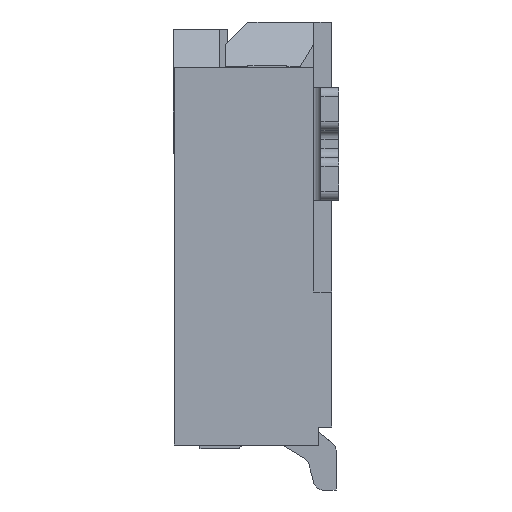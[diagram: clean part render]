
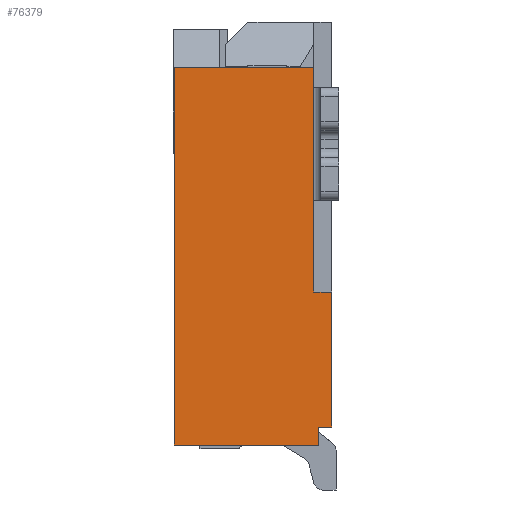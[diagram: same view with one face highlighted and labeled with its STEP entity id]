
A CAD part, left-side view. The second image highlights one B-rep face of the part: STEP entity #76379.
In plain terms, the highlighted planar face has unit normal (-1, 0, 0).
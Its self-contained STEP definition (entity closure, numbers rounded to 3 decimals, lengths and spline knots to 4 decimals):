
#3971=LINE('',#134524,#12940);
#3976=LINE('',#134535,#12945);
#9523=LINE('',#149463,#18492);
#9526=LINE('',#149468,#18495);
#9531=LINE('',#149477,#18500);
#9533=LINE('',#149480,#18502);
#9534=LINE('',#149481,#18503);
#9535=LINE('',#149483,#18504);
#12940=VECTOR('',#113207,1000.);
#12945=VECTOR('',#113214,1000.);
#18492=VECTOR('',#126399,1000.);
#18495=VECTOR('',#126404,1000.);
#18500=VECTOR('',#126413,1000.);
#18502=VECTOR('',#126417,1000.);
#18503=VECTOR('',#126418,1000.);
#18504=VECTOR('',#126419,1000.);
#39809=ORIENTED_EDGE('',*,*,#53177,.T.);
#39810=ORIENTED_EDGE('',*,*,#53174,.T.);
#39811=ORIENTED_EDGE('',*,*,#53184,.T.);
#39812=ORIENTED_EDGE('',*,*,#46014,.T.);
#39813=ORIENTED_EDGE('',*,*,#53185,.F.);
#39814=ORIENTED_EDGE('',*,*,#53186,.F.);
#39815=ORIENTED_EDGE('',*,*,#46019,.T.);
#39816=ORIENTED_EDGE('',*,*,#53182,.T.);
#46014=EDGE_CURVE('',#55937,#55936,#3971,.T.);
#46019=EDGE_CURVE('',#55939,#55941,#3976,.T.);
#53174=EDGE_CURVE('',#60720,#60719,#9523,.T.);
#53177=EDGE_CURVE('',#60721,#60720,#9526,.T.);
#53182=EDGE_CURVE('',#55941,#60721,#9531,.T.);
#53184=EDGE_CURVE('',#60719,#55937,#9533,.T.);
#53185=EDGE_CURVE('',#60723,#55936,#9534,.T.);
#53186=EDGE_CURVE('',#55939,#60723,#9535,.T.);
#55936=VERTEX_POINT('',#134523);
#55937=VERTEX_POINT('',#134525);
#55939=VERTEX_POINT('',#134530);
#55941=VERTEX_POINT('',#134534);
#60719=VERTEX_POINT('',#149462);
#60720=VERTEX_POINT('',#149464);
#60721=VERTEX_POINT('',#149469);
#60723=VERTEX_POINT('',#149482);
#66579=EDGE_LOOP('',(#39809,#39810,#39811,#39812,#39813,#39814,#39815,#39816));
#70208=FACE_BOUND('',#66579,.T.);
#72777=PLANE('',#106220);
#76379=ADVANCED_FACE('',(#70208),#72777,.F.);
#106220=AXIS2_PLACEMENT_3D('',#149479,#126415,#126416);
#113207=DIRECTION('',(0.,0.,1.));
#113214=DIRECTION('',(0.,1.,0.));
#126399=DIRECTION('',(0.,0.,-1.));
#126404=DIRECTION('',(0.,1.,0.));
#126413=DIRECTION('',(0.,0.,1.));
#126415=DIRECTION('',(1.,0.,0.));
#126416=DIRECTION('',(0.,0.,1.));
#126417=DIRECTION('',(0.,-1.,0.));
#126418=DIRECTION('',(0.,1.,0.));
#126419=DIRECTION('',(0.,0.,-1.));
#134523=CARTESIAN_POINT('',(-16.15,0.23,-4.5));
#134524=CARTESIAN_POINT('',(-16.15,0.23,-4.7));
#134525=CARTESIAN_POINT('',(-16.15,0.23,-4.7));
#134530=CARTESIAN_POINT('',(-16.15,0.08,-3.));
#134534=CARTESIAN_POINT('',(-16.15,0.28,-3.));
#134535=CARTESIAN_POINT('',(-16.15,0.08,-3.));
#149462=CARTESIAN_POINT('',(-16.15,1.83,-4.7));
#149463=CARTESIAN_POINT('',(-16.15,1.83,-0.5));
#149464=CARTESIAN_POINT('',(-16.15,1.83,-0.5));
#149468=CARTESIAN_POINT('',(-16.15,0.28,-0.5));
#149469=CARTESIAN_POINT('',(-16.15,0.28,-0.5));
#149477=CARTESIAN_POINT('',(-16.15,0.28,-3.));
#149479=CARTESIAN_POINT('',(-16.15,0.955,-2.6));
#149480=CARTESIAN_POINT('',(-16.15,1.83,-4.7));
#149481=CARTESIAN_POINT('',(-16.15,0.08,-4.5));
#149482=CARTESIAN_POINT('',(-16.15,0.08,-4.5));
#149483=CARTESIAN_POINT('',(-16.15,0.08,-3.));
